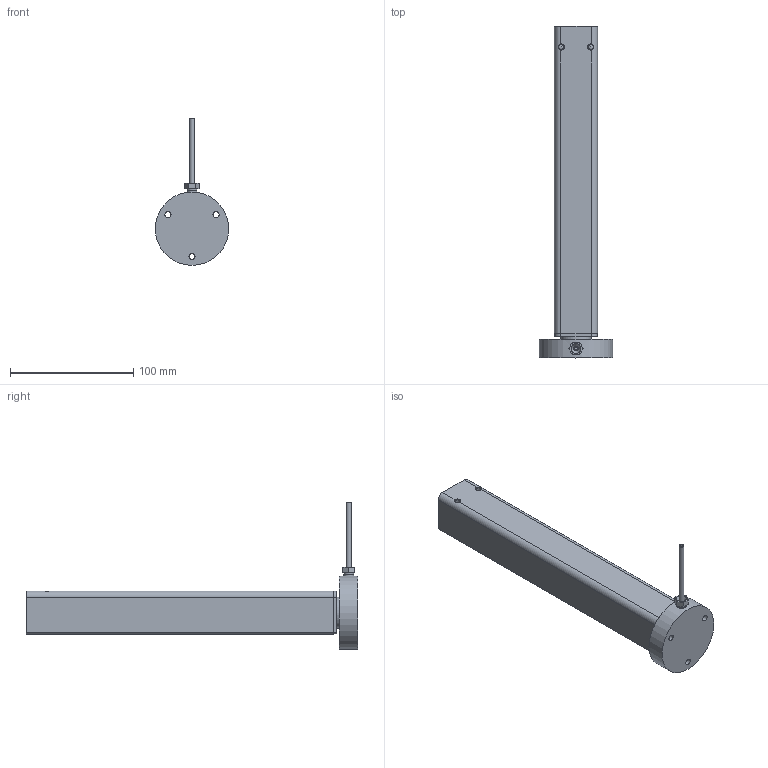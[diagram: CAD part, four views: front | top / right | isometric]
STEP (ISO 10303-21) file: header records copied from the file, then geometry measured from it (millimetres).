
FILE_DESCRIPTION(/* description */ ('Unknown'),/* implementation_level */ '2;1');
FILE_NAME(/* name */ '106.20041 Lineareinheit LD 1815_eingefahren',/* time_stamp */ '2017-11-02T17:08:30+01:00',/* author */ ('Unknown'),/* organization */ ('Unknown'),/* preprocessor_version */ 'ST-DEVELOPER v16.7',/* originating_system */ 'DEX',/* authorisation */ $);
FILE_SCHEMA (('AUTOMOTIVE_DESIGN {1 0 10303 214 3 1 1}'));
Products named in the file (11): 106.20041; 119.00001; 142.00014; 142.00021; 125.00021; 115.00008; 125.00049; 122.00018; 125.00055; 123.00001; 113.00002_70mm
Assembly tree (11 placements, depth 2):
  106.20041
    119.00001
    142.00014  x2
    142.00021
    125.00021
    115.00008
    125.00049
    122.00018
    125.00055
    123.00001
    113.00002_70mm
Bounding box: 59.5 x 269.25 x 119 mm (x, y, z)
Volume: 245423.3 mm3; surface area: 144274.9 mm2
Topology: 10 solids, 10 shells, 815 faces, 1906 edges, 1139 vertices
Faces by surface type: cylinder 277, plane 224, bspline 224, cone 48, torus 29, sphere 13
Full cylindrical faces by diameter (mm): 2.2 x1, 3.5 x2, 4 x7, 4.1 x1, 4.134 x4, 4.2 x1, 4.917 x3, 6.647 x1, 6.917 x2, 8 x2, 14.4 x1, 17.3 x2, 17.9 x2, 19 x2, 20.8 x4, 21 x1, 25 x1, 30.63 x1, 59.5 x1
Entity records: 76044 total; most frequent: CARTESIAN_POINT 59381, ORIENTED_EDGE 3520, DIRECTION 2695, EDGE_CURVE 1760, VERTEX_POINT 1084, AXIS2_PLACEMENT_3D 1044, FACE_BOUND 938, EDGE_LOOP 936
